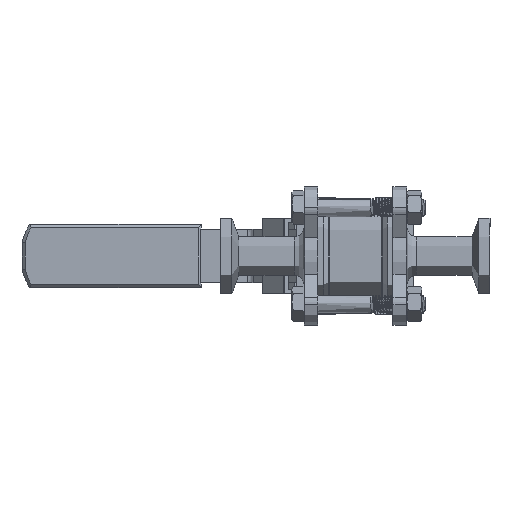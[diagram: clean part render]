
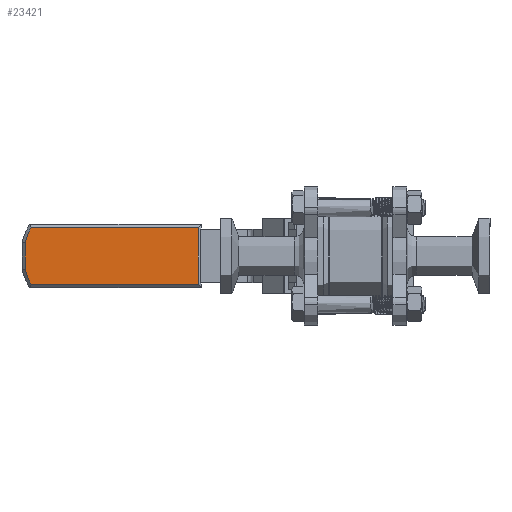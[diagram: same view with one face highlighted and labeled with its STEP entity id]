
A CAD part, front view. The second image highlights one B-rep face of the part: STEP entity #23421.
In plain terms, the highlighted planar face has unit normal (0, -1, 0).
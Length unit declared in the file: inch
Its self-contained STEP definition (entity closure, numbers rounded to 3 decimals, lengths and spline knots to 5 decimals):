
#87 = DIRECTION ( 'NONE',  ( 0., 0., -1. ) ) ;
#132 = ORIENTED_EDGE ( 'NONE', *, *, #18613, .T. ) ;
#1689 = DIRECTION ( 'NONE',  ( -1., 0., 0. ) ) ;
#2193 = LINE ( 'NONE', #13875, #23651 ) ;
#2766 = AXIS2_PLACEMENT_3D ( 'NONE', #23441, #10207, #16852 ) ;
#3309 = VECTOR ( 'NONE', #1689, 39.37008 ) ;
#3448 = DIRECTION ( 'NONE',  ( 1., 0., 0. ) ) ;
#3529 = DIRECTION ( 'NONE',  ( 0., 0., -1. ) ) ;
#4630 = EDGE_CURVE ( 'NONE', #26849, #9819, #21298, .T. ) ;
#5019 = CARTESIAN_POINT ( 'NONE',  ( 0.37, 0.831, 2.04 ) ) ;
#5151 = VERTEX_POINT ( 'NONE', #15574 ) ;
#5602 = CARTESIAN_POINT ( 'NONE',  ( 0.17046, 0.831, 4.29 ) ) ;
#6144 = FACE_OUTER_BOUND ( 'NONE', #26138, .T. ) ;
#6177 = PLANE ( 'NONE',  #18122 ) ;
#6261 = CIRCLE ( 'NONE', #13757, 0.73018 ) ;
#6599 = ORIENTED_EDGE ( 'NONE', *, *, #14585, .T. ) ;
#7732 = VERTEX_POINT ( 'NONE', #16719 ) ;
#7777 = ORIENTED_EDGE ( 'NONE', *, *, #21890, .T. ) ;
#8305 = EDGE_CURVE ( 'NONE', #5151, #7732, #25764, .T. ) ;
#8319 = CARTESIAN_POINT ( 'NONE',  ( 0.37, 0.831, 4.23198 ) ) ;
#9819 = VERTEX_POINT ( 'NONE', #26431 ) ;
#10207 = DIRECTION ( 'NONE',  ( 0., -1., 0. ) ) ;
#10218 = VECTOR ( 'NONE', #20413, 39.37008 ) ;
#10374 = CARTESIAN_POINT ( 'NONE',  ( 0., 0.831, 3.58 ) ) ;
#10402 = CARTESIAN_POINT ( 'NONE',  ( -0.35, 0.831, 2. ) ) ;
#10504 = CARTESIAN_POINT ( 'NONE',  ( -0.37, 0.831, 2.04 ) ) ;
#11721 = ORIENTED_EDGE ( 'NONE', *, *, #8305, .T. ) ;
#12485 = DIRECTION ( 'NONE',  ( 0., 0., -1. ) ) ;
#12512 = DIRECTION ( 'NONE',  ( 0., -1., 0. ) ) ;
#13757 = AXIS2_PLACEMENT_3D ( 'NONE', #10374, #24964, #12485 ) ;
#13875 = CARTESIAN_POINT ( 'NONE',  ( -0.37, 0.831, 2. ) ) ;
#14355 = LINE ( 'NONE', #22405, #3309 ) ;
#14585 = EDGE_CURVE ( 'NONE', #7732, #19943, #2193, .T. ) ;
#15574 = CARTESIAN_POINT ( 'NONE',  ( -0.17046, 0.831, 4.29 ) ) ;
#16719 = CARTESIAN_POINT ( 'NONE',  ( -0.37, 0.831, 4.20949 ) ) ;
#16852 = DIRECTION ( 'NONE',  ( 0., 0., -1. ) ) ;
#17231 = LINE ( 'NONE', #17974, #22782 ) ;
#17974 = CARTESIAN_POINT ( 'NONE',  ( -0.35, 0.831, 2.04 ) ) ;
#18122 = AXIS2_PLACEMENT_3D ( 'NONE', #10402, #12512, #87 ) ;
#18613 = EDGE_CURVE ( 'NONE', #9819, #25626, #6261, .T. ) ;
#18766 = ORIENTED_EDGE ( 'NONE', *, *, #4630, .T. ) ;
#19204 = EDGE_CURVE ( 'NONE', #25626, #5151, #14355, .T. ) ;
#19943 = VERTEX_POINT ( 'NONE', #10504 ) ;
#20413 = DIRECTION ( 'NONE',  ( 0., 0., 1. ) ) ;
#21298 = LINE ( 'NONE', #8319, #10218 ) ;
#21890 = EDGE_CURVE ( 'NONE', #19943, #26849, #17231, .T. ) ;
#22405 = CARTESIAN_POINT ( 'NONE',  ( -0.35, 0.831, 4.29 ) ) ;
#22782 = VECTOR ( 'NONE', #3448, 39.37008 ) ;
#23421 = ADVANCED_FACE ( 'NONE', ( #6144 ), #6177, .T. ) ;
#23441 = CARTESIAN_POINT ( 'NONE',  ( 0., 0.831, 3.58 ) ) ;
#23651 = VECTOR ( 'NONE', #3529, 39.37008 ) ;
#24964 = DIRECTION ( 'NONE',  ( 0., -1., 0. ) ) ;
#25307 = ORIENTED_EDGE ( 'NONE', *, *, #19204, .T. ) ;
#25626 = VERTEX_POINT ( 'NONE', #5602 ) ;
#25764 = CIRCLE ( 'NONE', #2766, 0.73018 ) ;
#26138 = EDGE_LOOP ( 'NONE', ( #6599, #7777, #18766, #132, #25307, #11721 ) ) ;
#26431 = CARTESIAN_POINT ( 'NONE',  ( 0.37, 0.831, 4.20949 ) ) ;
#26849 = VERTEX_POINT ( 'NONE', #5019 ) ;
